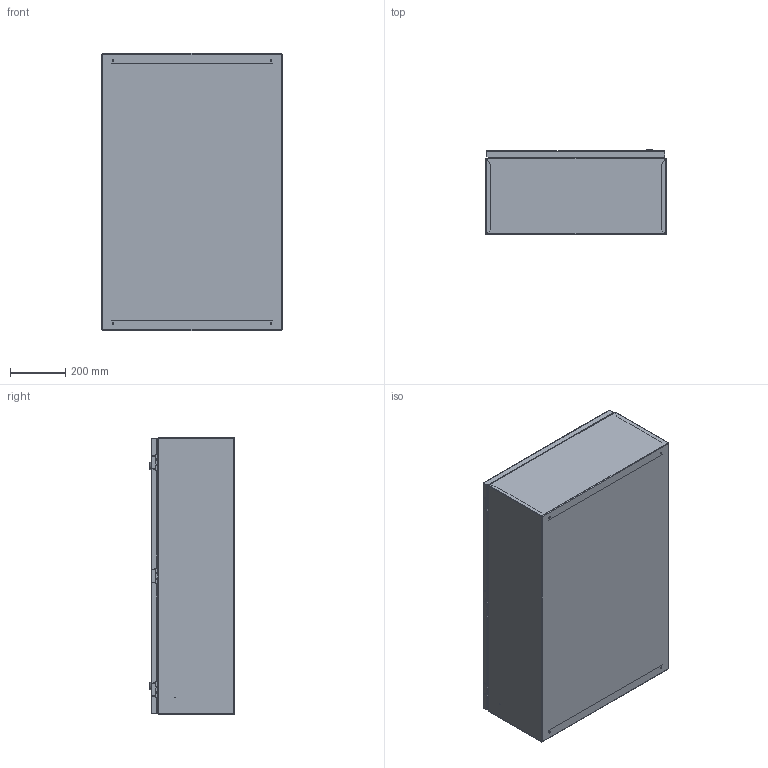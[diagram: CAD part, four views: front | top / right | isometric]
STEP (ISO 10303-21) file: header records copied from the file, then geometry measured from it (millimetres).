
FILE_DESCRIPTION (( 'STEP AP214' ), '1' );
FILE_NAME ('ÙÌÏ-05-1000õ650õ300-IP31-ÓÕË3-ÊÝÀÇ.STEP', '2023-01-24T12:23:23', ( '' ), ( '' ), 'SwSTEP 2.0', 'SolidWorks 2018', '' );
FILE_SCHEMA (( 'AUTOMOTIVE_DESIGN' ));
Length unit declared in the file: millimetre
Products named in the file (1): ÙÌÏ-05-1000õ650õ300-IP31-ÓÕË3-ÊÝÀÇ
Bounding box: 650 x 306.7 x 1000 mm (x, y, z)
Surface area: 4641862.7 mm2 (no closed solid volume)
Topology: 0 solids, 42 shells, 179 faces, 742 edges, 592 vertices
Faces by surface type: plane 90, cylinder 75, torus 8, cone 4, bspline 2
Entity records: 10471 total; most frequent: CARTESIAN_POINT 2386, DIRECTION 1300, ORIENTED_EDGE 976, EDGE_CURVE 742, VERTEX_POINT 592, AXIS2_PLACEMENT_3D 438, VECTOR 424, LINE 424
